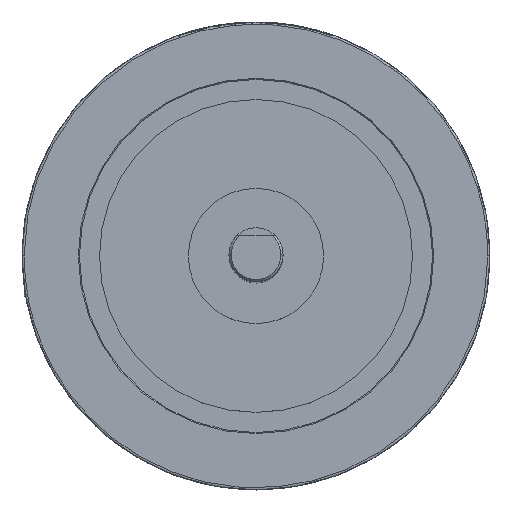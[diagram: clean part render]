
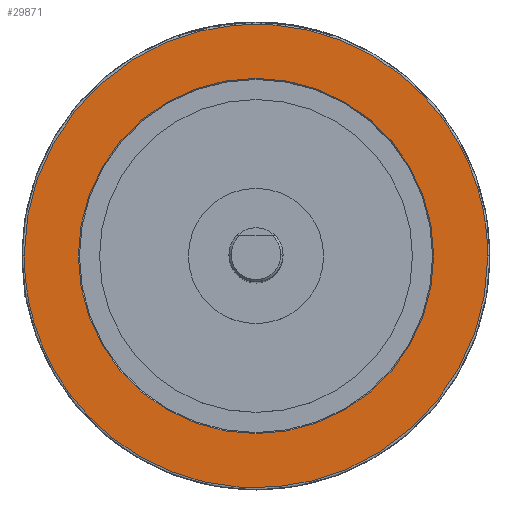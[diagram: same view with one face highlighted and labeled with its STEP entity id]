
A CAD part, top view. The second image highlights one B-rep face of the part: STEP entity #29871.
In plain terms, the highlighted planar face has unit normal (0, 0, 1).
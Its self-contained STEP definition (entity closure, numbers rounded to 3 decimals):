
#5886 = CARTESIAN_POINT ( 'NONE',  ( -2.718, 0., 0. ) ) ;
#7357 = CARTESIAN_POINT ( 'NONE',  ( 0., 2.083, 0. ) ) ;
#7449 = CARTESIAN_POINT ( 'NONE',  ( 0., -2.083, 0. ) ) ;
#8241 = ORIENTED_EDGE ( 'NONE', *, *, #29286, .F. ) ;
#8505 = ORIENTED_EDGE ( 'NONE', *, *, #11304, .T. ) ;
#9826 = CARTESIAN_POINT ( 'NONE',  ( -2.718, 0., 0. ) ) ;
#9828 = CARTESIAN_POINT ( 'NONE',  ( -2.718, 5.436, 0. ) ) ;
#9836 = CARTESIAN_POINT ( 'NONE',  ( 2.718, 5.436, 0. ) ) ;
#9837 = CARTESIAN_POINT ( 'NONE',  ( 2.718, 0., 0. ) ) ;
#11304 = EDGE_CURVE ( 'NONE', #25416, #25191, #24498, .T. ) ;
#12411 = AXIS2_PLACEMENT_3D ( 'NONE', #26882, #26879, #26886 ) ;
#13843 = CIRCLE ( 'NONE', #52764, 2.083 ) ;
#15501 = EDGE_LOOP ( 'NONE', ( #54007, #8241 ) ) ;
#16251 = EDGE_LOOP ( 'NONE', ( #54135, #8505 ) ) ;
#17254 = CARTESIAN_POINT ( 'NONE',  ( 2.718, 0., 0. ) ) ;
#17256 = CARTESIAN_POINT ( 'NONE',  ( 2.718, -5.436, 0. ) ) ;
#17265 = CARTESIAN_POINT ( 'NONE',  ( -2.718, -5.436, 0. ) ) ;
#17267 = CARTESIAN_POINT ( 'NONE',  ( -2.718, 0., 0. ) ) ;
#17354 = CARTESIAN_POINT ( 'NONE',  ( 0., 0., 0. ) ) ;
#17355 = DIRECTION ( 'NONE',  ( 0., 0., -1. ) ) ;
#17356 = DIRECTION ( 'NONE',  ( 0., -1., 0. ) ) ;
#23264 = FACE_OUTER_BOUND ( 'NONE', #15501, .T. ) ;
#23269 = FACE_BOUND ( 'NONE', #16251, .T. ) ;
#24498 = CIRCLE ( 'NONE', #12411, 2.083 ) ;
#24799 = VERTEX_POINT ( 'NONE', #34156 ) ;
#25191 = VERTEX_POINT ( 'NONE', #7449 ) ;
#25416 = VERTEX_POINT ( 'NONE', #7357 ) ;
#25645 = VERTEX_POINT ( 'NONE', #5886 ) ;
#26879 = DIRECTION ( 'NONE',  ( 0., 0., -1. ) ) ;
#26882 = CARTESIAN_POINT ( 'NONE',  ( 0., 0., 0. ) ) ;
#26886 = DIRECTION ( 'NONE',  ( 0., -1., 0. ) ) ;
#29286 = EDGE_CURVE ( 'NONE', #25645, #24799, #30977, .T. ) ;
#29871 = ADVANCED_FACE ( 'NONE', ( #23264, #23269 ), #46692, .T. ) ;
#30977 =( BOUNDED_CURVE ( )  B_SPLINE_CURVE ( 3, ( #9826, #9828, #9836, #9837 ),
 .UNSPECIFIED., .F., .T. ) 
 B_SPLINE_CURVE_WITH_KNOTS ( ( 4, 4 ),
 ( 0.5, 1. ),
 .UNSPECIFIED. ) 
 CURVE ( )  GEOMETRIC_REPRESENTATION_ITEM ( )  RATIONAL_B_SPLINE_CURVE ( ( 1., 0.333, 0.333, 1. ) ) 
 REPRESENTATION_ITEM ( '' )  );
#30984 =( BOUNDED_CURVE ( )  B_SPLINE_CURVE ( 3, ( #17254, #17256, #17265, #17267 ),
 .UNSPECIFIED., .F., .T. ) 
 B_SPLINE_CURVE_WITH_KNOTS ( ( 4, 4 ),
 ( 0., 0.5 ),
 .UNSPECIFIED. ) 
 CURVE ( )  GEOMETRIC_REPRESENTATION_ITEM ( )  RATIONAL_B_SPLINE_CURVE ( ( 1., 0.333, 0.333, 1. ) ) 
 REPRESENTATION_ITEM ( '' )  );
#34156 = CARTESIAN_POINT ( 'NONE',  ( 2.718, 0., 0. ) ) ;
#35144 = EDGE_CURVE ( 'NONE', #24799, #25645, #30984, .T. ) ;
#35219 = EDGE_CURVE ( 'NONE', #25191, #25416, #13843, .T. ) ;
#41896 = AXIS2_PLACEMENT_3D ( 'NONE', #46684, #46694, #46695 ) ;
#46684 = CARTESIAN_POINT ( 'NONE',  ( 2.07, 0., 0. ) ) ;
#46692 = PLANE ( 'NONE',  #41896 ) ;
#46694 = DIRECTION ( 'NONE',  ( 0., 0., 1. ) ) ;
#46695 = DIRECTION ( 'NONE',  ( 0., -1., 0. ) ) ;
#52764 = AXIS2_PLACEMENT_3D ( 'NONE', #17354, #17355, #17356 ) ;
#54007 = ORIENTED_EDGE ( 'NONE', *, *, #35144, .F. ) ;
#54135 = ORIENTED_EDGE ( 'NONE', *, *, #35219, .T. ) ;
